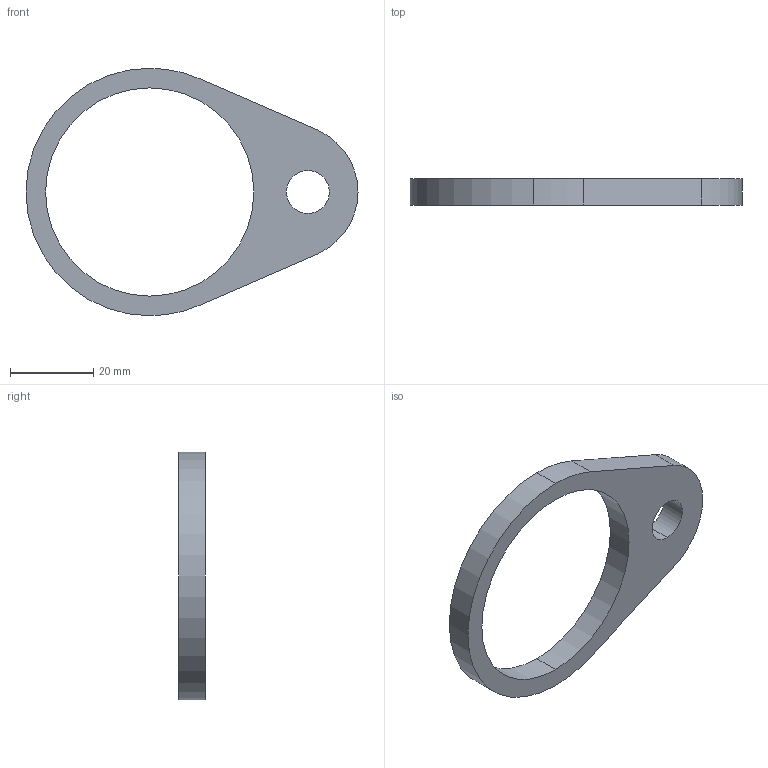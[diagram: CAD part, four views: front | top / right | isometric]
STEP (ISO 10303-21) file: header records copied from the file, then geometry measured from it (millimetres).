
FILE_DESCRIPTION (( 'STEP AP214' ), '1' );
FILE_NAME ('GasSpringClamp-A-50.stp', '2011-04-26T18:56:03', ( '' ), ( '' ), 'SwSTEP 2.0', 'SolidWorks 2010', '' );
FILE_SCHEMA (( 'AUTOMOTIVE_DESIGN' ));
Length unit declared in the file: inch
Products named in the file (1): GasSpringClamp-A-50
Bounding box: 79.73 x 6.35 x 59.44 mm (x, y, z)
Volume: 9096.8 mm3; surface area: 5448.8 mm2
Topology: 1 solids, 1 shells, 12 faces, 30 edges, 20 vertices
Faces by surface type: cylinder 8, plane 4
Entity records: 418 total; most frequent: DIRECTION 72, CARTESIAN_POINT 63, ORIENTED_EDGE 60, EDGE_CURVE 30, AXIS2_PLACEMENT_3D 29, VERTEX_POINT 20, CIRCLE 16, EDGE_LOOP 16
